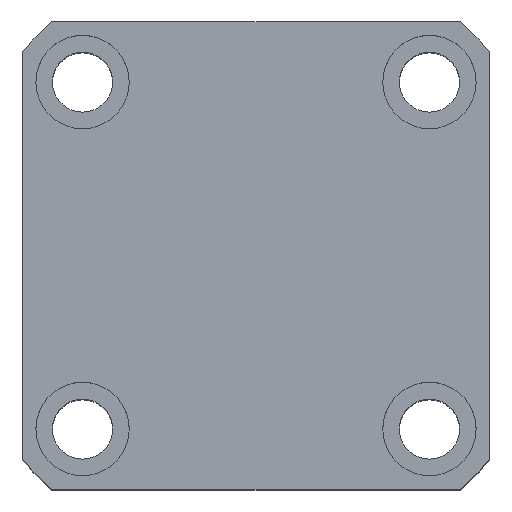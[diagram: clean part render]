
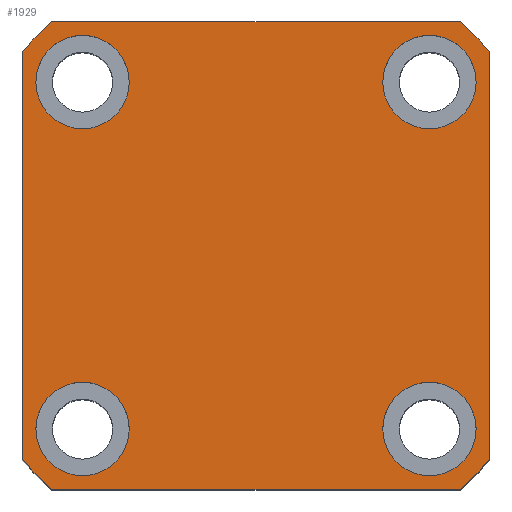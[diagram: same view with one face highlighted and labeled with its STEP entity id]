
A CAD part, top view. The second image highlights one B-rep face of the part: STEP entity #1929.
In plain terms, the highlighted planar face has unit normal (0, 0, 1).
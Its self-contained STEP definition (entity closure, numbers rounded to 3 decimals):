
#1 = EDGE_CURVE ( 'NONE', #4459, #9299, #7314, .T. ) ;
#28 = CARTESIAN_POINT ( 'NONE',  ( -19., -26., 85. ) ) ;
#64 = CARTESIAN_POINT ( 'NONE',  ( 35., 35., 85. ) ) ;
#115 = DIRECTION ( 'NONE',  ( 1., 0., 0. ) ) ;
#173 = ORIENTED_EDGE ( 'NONE', *, *, #7887, .F. ) ;
#324 = LINE ( 'NONE', #7651, #4440 ) ;
#587 = VECTOR ( 'NONE', #6560, 1000. ) ;
#830 = DIRECTION ( 'NONE',  ( 0., 0., 1. ) ) ;
#838 = CARTESIAN_POINT ( 'NONE',  ( -30.615, 35., 85. ) ) ;
#884 = ORIENTED_EDGE ( 'NONE', *, *, #3242, .F. ) ;
#901 = DIRECTION ( 'NONE',  ( 0., 0., 1. ) ) ;
#1138 = CARTESIAN_POINT ( 'NONE',  ( -33., 26., 85. ) ) ;
#1162 = VERTEX_POINT ( 'NONE', #7362 ) ;
#1375 = DIRECTION ( 'NONE',  ( 0., 0., 1. ) ) ;
#1517 = ORIENTED_EDGE ( 'NONE', *, *, #9724, .T. ) ;
#1537 = AXIS2_PLACEMENT_3D ( 'NONE', #8077, #3440, #8862 ) ;
#1609 = FACE_BOUND ( 'NONE', #2372, .T. ) ;
#1624 = DIRECTION ( 'NONE',  ( 0., 1., 0. ) ) ;
#1750 = AXIS2_PLACEMENT_3D ( 'NONE', #8670, #8605, #115 ) ;
#1752 = EDGE_LOOP ( 'NONE', ( #3070, #884 ) ) ;
#1793 = CARTESIAN_POINT ( 'NONE',  ( 19., -26., 85. ) ) ;
#1927 = CARTESIAN_POINT ( 'NONE',  ( -35., 35., 85. ) ) ;
#1929 = ADVANCED_FACE ( 'NONE', ( #1609, #3890, #3653, #5714, #9596 ), #3927, .T. ) ;
#2111 = CARTESIAN_POINT ( 'NONE',  ( 26., -26., 85. ) ) ;
#2138 = DIRECTION ( 'NONE',  ( 0., 0., 1. ) ) ;
#2252 = CIRCLE ( 'NONE', #5700, 7. ) ;
#2311 = EDGE_CURVE ( 'NONE', #5992, #4521, #4503, .T. ) ;
#2366 = EDGE_CURVE ( 'NONE', #7432, #5992, #4141, .T. ) ;
#2372 = EDGE_LOOP ( 'NONE', ( #7389, #4639 ) ) ;
#2522 = EDGE_CURVE ( 'NONE', #8446, #8482, #7549, .T. ) ;
#2598 = CARTESIAN_POINT ( 'NONE',  ( 35., 30.615, 85. ) ) ;
#2634 = CARTESIAN_POINT ( 'NONE',  ( -33., -26., 85. ) ) ;
#2679 = CARTESIAN_POINT ( 'NONE',  ( -26., -26., 85. ) ) ;
#2811 = CIRCLE ( 'NONE', #8293, 7. ) ;
#2852 = CARTESIAN_POINT ( 'NONE',  ( 26., -26., 85. ) ) ;
#2858 = CIRCLE ( 'NONE', #8550, 7. ) ;
#3010 = DIRECTION ( 'NONE',  ( 1., 0., 0. ) ) ;
#3015 = CARTESIAN_POINT ( 'NONE',  ( 30.615, 35., 85. ) ) ;
#3060 = ORIENTED_EDGE ( 'NONE', *, *, #10042, .T. ) ;
#3070 = ORIENTED_EDGE ( 'NONE', *, *, #9582, .F. ) ;
#3082 = CIRCLE ( 'NONE', #1537, 46.5 ) ;
#3100 = AXIS2_PLACEMENT_3D ( 'NONE', #6005, #1375, #6786 ) ;
#3151 = CARTESIAN_POINT ( 'NONE',  ( 26., 26., 85. ) ) ;
#3162 = VECTOR ( 'NONE', #1624, 1000. ) ;
#3211 = CIRCLE ( 'NONE', #9016, 7. ) ;
#3242 = EDGE_CURVE ( 'NONE', #5802, #7566, #2811, .T. ) ;
#3322 = CIRCLE ( 'NONE', #9503, 7. ) ;
#3344 = ORIENTED_EDGE ( 'NONE', *, *, #6850, .T. ) ;
#3414 = VECTOR ( 'NONE', #9156, 1000. ) ;
#3431 = VERTEX_POINT ( 'NONE', #9517 ) ;
#3440 = DIRECTION ( 'NONE',  ( 0., 0., 1. ) ) ;
#3451 = DIRECTION ( 'NONE',  ( 1., 0., 0. ) ) ;
#3494 = CARTESIAN_POINT ( 'NONE',  ( -35., 30.615, 85. ) ) ;
#3554 = ORIENTED_EDGE ( 'NONE', *, *, #2522, .T. ) ;
#3627 = DIRECTION ( 'NONE',  ( 1., 0., 0. ) ) ;
#3653 = FACE_BOUND ( 'NONE', #8093, .T. ) ;
#3781 = VERTEX_POINT ( 'NONE', #28 ) ;
#3890 = FACE_BOUND ( 'NONE', #5591, .T. ) ;
#3927 = PLANE ( 'NONE',  #6093 ) ;
#3939 = DIRECTION ( 'NONE',  ( 1., 0., 0. ) ) ;
#4054 = CARTESIAN_POINT ( 'NONE',  ( -26., 26., 85. ) ) ;
#4141 = CIRCLE ( 'NONE', #1750, 46.5 ) ;
#4275 = CARTESIAN_POINT ( 'NONE',  ( -35., -30.615, 85. ) ) ;
#4315 = CIRCLE ( 'NONE', #8736, 7. ) ;
#4342 = DIRECTION ( 'NONE',  ( 0., 0., 1. ) ) ;
#4344 = LINE ( 'NONE', #1927, #587 ) ;
#4440 = VECTOR ( 'NONE', #3010, 1000. ) ;
#4459 = VERTEX_POINT ( 'NONE', #1793 ) ;
#4503 = LINE ( 'NONE', #64, #3162 ) ;
#4521 = VERTEX_POINT ( 'NONE', #2598 ) ;
#4639 = ORIENTED_EDGE ( 'NONE', *, *, #5129, .F. ) ;
#4758 = ORIENTED_EDGE ( 'NONE', *, *, #2311, .T. ) ;
#4765 = CARTESIAN_POINT ( 'NONE',  ( -30.615, -35., 85. ) ) ;
#4768 = VERTEX_POINT ( 'NONE', #3015 ) ;
#4833 = DIRECTION ( 'NONE',  ( 1., 0., 0. ) ) ;
#5129 = EDGE_CURVE ( 'NONE', #9663, #3781, #7272, .T. ) ;
#5228 = AXIS2_PLACEMENT_3D ( 'NONE', #2111, #8250, #5255 ) ;
#5255 = DIRECTION ( 'NONE',  ( 1., 0., 0. ) ) ;
#5453 = CARTESIAN_POINT ( 'NONE',  ( -26., -26., 85. ) ) ;
#5530 = CARTESIAN_POINT ( 'NONE',  ( -26., 26., 85. ) ) ;
#5543 = EDGE_LOOP ( 'NONE', ( #4758, #9421, #3344, #1517, #3554, #3060, #8895, #9983 ) ) ;
#5591 = EDGE_LOOP ( 'NONE', ( #173, #6596 ) ) ;
#5700 = AXIS2_PLACEMENT_3D ( 'NONE', #5453, #830, #6235 ) ;
#5714 = FACE_BOUND ( 'NONE', #1752, .T. ) ;
#5802 = VERTEX_POINT ( 'NONE', #1138 ) ;
#5992 = VERTEX_POINT ( 'NONE', #7028 ) ;
#6003 = CIRCLE ( 'NONE', #6725, 46.5 ) ;
#6005 = CARTESIAN_POINT ( 'NONE',  ( 0., 0., 85. ) ) ;
#6093 = AXIS2_PLACEMENT_3D ( 'NONE', #8530, #6214, #9563 ) ;
#6214 = DIRECTION ( 'NONE',  ( 0., 0., 1. ) ) ;
#6235 = DIRECTION ( 'NONE',  ( 1., 0., 0. ) ) ;
#6306 = DIRECTION ( 'NONE',  ( 1., 0., 0. ) ) ;
#6560 = DIRECTION ( 'NONE',  ( -1., 0., 0. ) ) ;
#6596 = ORIENTED_EDGE ( 'NONE', *, *, #1, .F. ) ;
#6620 = CIRCLE ( 'NONE', #3100, 46.5 ) ;
#6641 = VERTEX_POINT ( 'NONE', #4765 ) ;
#6725 = AXIS2_PLACEMENT_3D ( 'NONE', #6774, #2138, #7550 ) ;
#6774 = CARTESIAN_POINT ( 'NONE',  ( 0., 0., 85. ) ) ;
#6786 = DIRECTION ( 'NONE',  ( 1., 0., 0. ) ) ;
#6850 = EDGE_CURVE ( 'NONE', #4768, #7342, #4344, .T. ) ;
#6888 = CARTESIAN_POINT ( 'NONE',  ( -35., 35., 85. ) ) ;
#7028 = CARTESIAN_POINT ( 'NONE',  ( 35., -30.615, 85. ) ) ;
#7272 = CIRCLE ( 'NONE', #9103, 7. ) ;
#7314 = CIRCLE ( 'NONE', #5228, 7. ) ;
#7337 = EDGE_CURVE ( 'NONE', #3431, #1162, #4315, .T. ) ;
#7342 = VERTEX_POINT ( 'NONE', #838 ) ;
#7362 = CARTESIAN_POINT ( 'NONE',  ( 33., 26., 85. ) ) ;
#7389 = ORIENTED_EDGE ( 'NONE', *, *, #9473, .F. ) ;
#7432 = VERTEX_POINT ( 'NONE', #8374 ) ;
#7549 = LINE ( 'NONE', #6888, #3414 ) ;
#7550 = DIRECTION ( 'NONE',  ( 1., 0., 0. ) ) ;
#7566 = VERTEX_POINT ( 'NONE', #7801 ) ;
#7651 = CARTESIAN_POINT ( 'NONE',  ( -35., -35., 85. ) ) ;
#7777 = ORIENTED_EDGE ( 'NONE', *, *, #7337, .F. ) ;
#7801 = CARTESIAN_POINT ( 'NONE',  ( -19., 26., 85. ) ) ;
#7887 = EDGE_CURVE ( 'NONE', #9299, #4459, #2858, .T. ) ;
#7969 = EDGE_CURVE ( 'NONE', #6641, #7432, #324, .T. ) ;
#8077 = CARTESIAN_POINT ( 'NONE',  ( 0., 0., 85. ) ) ;
#8085 = DIRECTION ( 'NONE',  ( 0., 0., 1. ) ) ;
#8093 = EDGE_LOOP ( 'NONE', ( #9760, #7777 ) ) ;
#8250 = DIRECTION ( 'NONE',  ( 0., 0., 1. ) ) ;
#8254 = DIRECTION ( 'NONE',  ( 0., 0., 1. ) ) ;
#8293 = AXIS2_PLACEMENT_3D ( 'NONE', #5530, #901, #6306 ) ;
#8374 = CARTESIAN_POINT ( 'NONE',  ( 30.615, -35., 85. ) ) ;
#8446 = VERTEX_POINT ( 'NONE', #3494 ) ;
#8482 = VERTEX_POINT ( 'NONE', #4275 ) ;
#8530 = CARTESIAN_POINT ( 'NONE',  ( 0., 0., 85. ) ) ;
#8550 = AXIS2_PLACEMENT_3D ( 'NONE', #2852, #8254, #3627 ) ;
#8578 = DIRECTION ( 'NONE',  ( 0., 0., 1. ) ) ;
#8605 = DIRECTION ( 'NONE',  ( 0., 0., 1. ) ) ;
#8670 = CARTESIAN_POINT ( 'NONE',  ( 0., 0., 85. ) ) ;
#8736 = AXIS2_PLACEMENT_3D ( 'NONE', #3151, #8578, #3939 ) ;
#8862 = DIRECTION ( 'NONE',  ( 1., 0., 0. ) ) ;
#8895 = ORIENTED_EDGE ( 'NONE', *, *, #7969, .T. ) ;
#8983 = CARTESIAN_POINT ( 'NONE',  ( 26., 26., 85. ) ) ;
#9016 = AXIS2_PLACEMENT_3D ( 'NONE', #8983, #4342, #9775 ) ;
#9018 = CARTESIAN_POINT ( 'NONE',  ( 33., -26., 85. ) ) ;
#9103 = AXIS2_PLACEMENT_3D ( 'NONE', #2679, #8085, #3451 ) ;
#9156 = DIRECTION ( 'NONE',  ( 0., -1., 0. ) ) ;
#9250 = EDGE_CURVE ( 'NONE', #1162, #3431, #3211, .T. ) ;
#9299 = VERTEX_POINT ( 'NONE', #9018 ) ;
#9388 = EDGE_CURVE ( 'NONE', #4521, #4768, #6620, .T. ) ;
#9421 = ORIENTED_EDGE ( 'NONE', *, *, #9388, .T. ) ;
#9473 = EDGE_CURVE ( 'NONE', #3781, #9663, #2252, .T. ) ;
#9478 = DIRECTION ( 'NONE',  ( 0., 0., 1. ) ) ;
#9503 = AXIS2_PLACEMENT_3D ( 'NONE', #4054, #9478, #4833 ) ;
#9517 = CARTESIAN_POINT ( 'NONE',  ( 19., 26., 85. ) ) ;
#9563 = DIRECTION ( 'NONE',  ( 1., 0., 0. ) ) ;
#9582 = EDGE_CURVE ( 'NONE', #7566, #5802, #3322, .T. ) ;
#9596 = FACE_OUTER_BOUND ( 'NONE', #5543, .T. ) ;
#9663 = VERTEX_POINT ( 'NONE', #2634 ) ;
#9724 = EDGE_CURVE ( 'NONE', #7342, #8446, #3082, .T. ) ;
#9760 = ORIENTED_EDGE ( 'NONE', *, *, #9250, .F. ) ;
#9775 = DIRECTION ( 'NONE',  ( 1., 0., 0. ) ) ;
#9983 = ORIENTED_EDGE ( 'NONE', *, *, #2366, .T. ) ;
#10042 = EDGE_CURVE ( 'NONE', #8482, #6641, #6003, .T. ) ;
